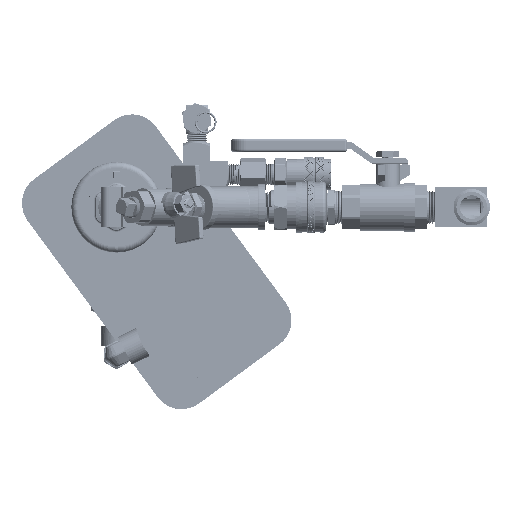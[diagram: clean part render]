
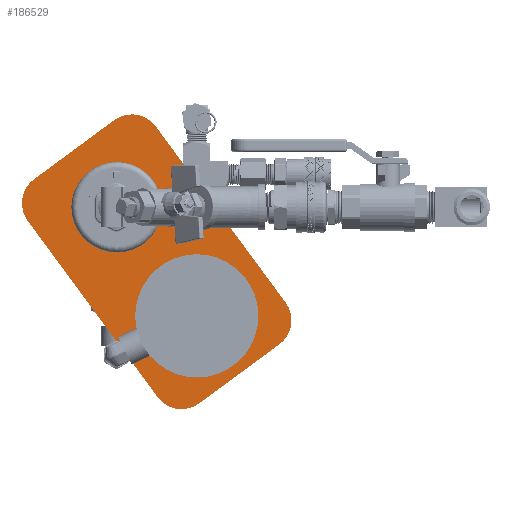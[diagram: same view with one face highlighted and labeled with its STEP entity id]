
A CAD part, top view. The second image highlights one B-rep face of the part: STEP entity #186529.
In plain terms, the highlighted planar face has unit normal (0, 0, 1).
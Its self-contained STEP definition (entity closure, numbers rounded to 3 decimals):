
#10420=FACE_BOUND('',#27282,.T.);
#10421=FACE_BOUND('',#27283,.T.);
#15924=FACE_OUTER_BOUND('',#27281,.T.);
#27281=EDGE_LOOP('',(#128902,#128903,#128904,#128905,#128906,#128907,#128908,
#128909));
#27282=EDGE_LOOP('',(#128910));
#27283=EDGE_LOOP('',(#128911));
#36439=CIRCLE('',#200894,1.088);
#36441=CIRCLE('',#200897,1.088);
#36443=CIRCLE('',#200900,0.75);
#36444=CIRCLE('',#200903,0.75);
#36445=CIRCLE('',#200904,0.75);
#36446=CIRCLE('',#200905,0.75);
#42838=LINE('',#324641,#57930);
#42841=LINE('',#324647,#57933);
#42842=LINE('',#324651,#57934);
#42843=LINE('',#324655,#57935);
#57930=VECTOR('',#234276,0.394);
#57933=VECTOR('',#234281,0.394);
#57934=VECTOR('',#234284,0.394);
#57935=VECTOR('',#234287,0.394);
#73299=VERTEX_POINT('',#324621);
#73301=VERTEX_POINT('',#324627);
#73304=VERTEX_POINT('',#324634);
#73305=VERTEX_POINT('',#324636);
#73306=VERTEX_POINT('',#324640);
#73308=VERTEX_POINT('',#324646);
#73309=VERTEX_POINT('',#324648);
#73310=VERTEX_POINT('',#324650);
#73311=VERTEX_POINT('',#324652);
#73312=VERTEX_POINT('',#324654);
#92442=EDGE_CURVE('',#73299,#73299,#36439,.T.);
#92445=EDGE_CURVE('',#73301,#73301,#36441,.T.);
#92448=EDGE_CURVE('',#73304,#73305,#36443,.T.);
#92450=EDGE_CURVE('',#73306,#73305,#42838,.T.);
#92453=EDGE_CURVE('',#73304,#73308,#42841,.T.);
#92454=EDGE_CURVE('',#73309,#73308,#36444,.T.);
#92455=EDGE_CURVE('',#73309,#73310,#42842,.T.);
#92456=EDGE_CURVE('',#73311,#73310,#36445,.T.);
#92457=EDGE_CURVE('',#73311,#73312,#42843,.T.);
#92458=EDGE_CURVE('',#73306,#73312,#36446,.T.);
#128902=ORIENTED_EDGE('',*,*,#92448,.F.);
#128903=ORIENTED_EDGE('',*,*,#92453,.T.);
#128904=ORIENTED_EDGE('',*,*,#92454,.F.);
#128905=ORIENTED_EDGE('',*,*,#92455,.T.);
#128906=ORIENTED_EDGE('',*,*,#92456,.F.);
#128907=ORIENTED_EDGE('',*,*,#92457,.T.);
#128908=ORIENTED_EDGE('',*,*,#92458,.F.);
#128909=ORIENTED_EDGE('',*,*,#92450,.T.);
#128910=ORIENTED_EDGE('',*,*,#92442,.T.);
#128911=ORIENTED_EDGE('',*,*,#92445,.T.);
#165307=PLANE('',#200902);
#186529=ADVANCED_FACE('',(#15924,#10420,#10421),#165307,.F.);
#200894=AXIS2_PLACEMENT_3D('',#324623,#234257,#234258);
#200897=AXIS2_PLACEMENT_3D('',#324629,#234264,#234265);
#200900=AXIS2_PLACEMENT_3D('',#324637,#234271,#234272);
#200902=AXIS2_PLACEMENT_3D('',#324645,#234279,#234280);
#200903=AXIS2_PLACEMENT_3D('',#324649,#234282,#234283);
#200904=AXIS2_PLACEMENT_3D('',#324653,#234285,#234286);
#200905=AXIS2_PLACEMENT_3D('',#324656,#234288,#234289);
#234257=DIRECTION('center_axis',(0.,0.,
-1.));
#234258=DIRECTION('ref_axis',(0.593,-0.805,0.));
#234264=DIRECTION('center_axis',(0.,0.,
-1.));
#234265=DIRECTION('ref_axis',(0.593,-0.805,0.));
#234271=DIRECTION('center_axis',(0.,0.,
-1.));
#234272=DIRECTION('ref_axis',(0.15,0.989,0.));
#234276=DIRECTION('',(-0.593,0.805,0.));
#234279=DIRECTION('center_axis',(0.,0.,
-1.));
#234280=DIRECTION('ref_axis',(-0.593,0.805,0.));
#234281=DIRECTION('',(-0.805,-0.593,0.));
#234282=DIRECTION('center_axis',(0.,0.,
-1.));
#234283=DIRECTION('ref_axis',(-0.989,0.15,0.));
#234284=DIRECTION('',(0.593,-0.805,0.));
#234285=DIRECTION('center_axis',(0.,0.,
-1.));
#234286=DIRECTION('ref_axis',(-0.15,-0.989,0.));
#234287=DIRECTION('',(0.805,0.593,0.));
#234288=DIRECTION('center_axis',(0.,0.,
-1.));
#234289=DIRECTION('ref_axis',(0.989,-0.15,0.));
#324621=CARTESIAN_POINT('',(-7.945,-2.361,-2.604));
#324623=CARTESIAN_POINT('Origin',(-7.3,-3.237,-2.604));
#324627=CARTESIAN_POINT('',(-9.963,0.376,-2.604));
#324629=CARTESIAN_POINT('Origin',(-9.317,-0.5,
-2.604));
#324634=CARTESIAN_POINT('',(-9.379,1.691,-2.604));
#324636=CARTESIAN_POINT('',(-8.33,1.532,-2.604));
#324637=CARTESIAN_POINT('Origin',(-8.934,1.087,-2.604));
#324640=CARTESIAN_POINT('',(-5.067,-2.895,-2.604));
#324641=CARTESIAN_POINT('',(-4.622,-3.499,-2.604));
#324645=CARTESIAN_POINT('Origin',(-8.309,-1.868,-2.604));
#324646=CARTESIAN_POINT('',(-11.392,0.207,-2.604));
#324647=CARTESIAN_POINT('',(-8.776,2.136,-2.604));
#324648=CARTESIAN_POINT('',(-11.55,-0.842,-2.604));
#324649=CARTESIAN_POINT('Origin',(-10.946,-0.397,
-2.604));
#324650=CARTESIAN_POINT('',(-8.287,-5.269,-2.604));
#324651=CARTESIAN_POINT('',(-11.995,-0.238,-2.604));
#324652=CARTESIAN_POINT('',(-7.238,-5.427,-2.604));
#324653=CARTESIAN_POINT('Origin',(-7.683,-4.824,-2.604));
#324654=CARTESIAN_POINT('',(-5.226,-3.944,-2.604));
#324655=CARTESIAN_POINT('',(-7.842,-5.872,-2.604));
#324656=CARTESIAN_POINT('Origin',(-5.671,-3.34,-2.604));
